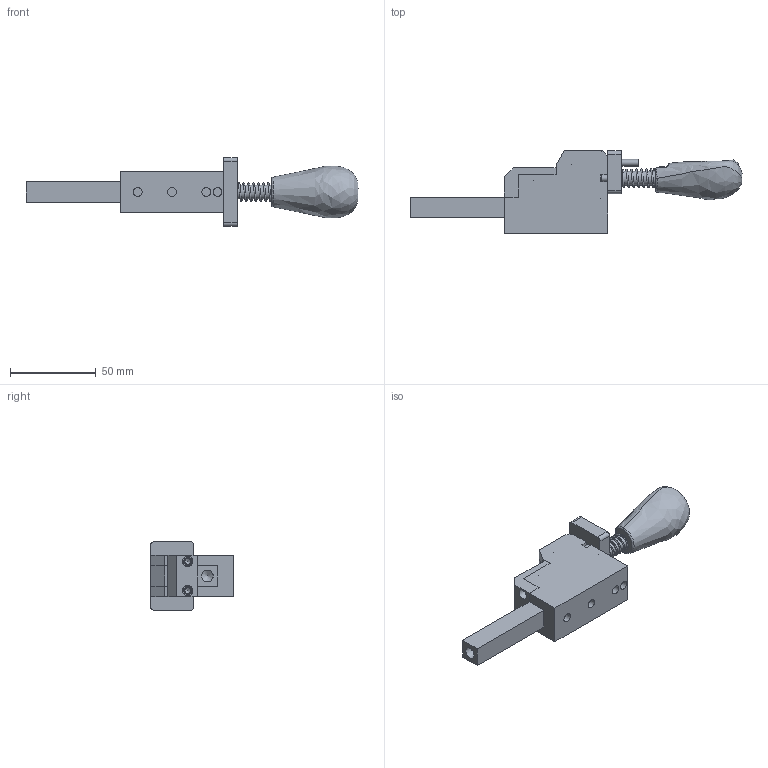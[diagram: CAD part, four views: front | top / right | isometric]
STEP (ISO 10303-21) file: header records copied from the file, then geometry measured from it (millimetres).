
FILE_DESCRIPTION(/* description */ (''),/* implementation_level */ '2;1');
FILE_NAME(/* name */ '\\192.168.1.150\pc03\Inventor\デュアルメカニズムクランプ最終\2017.10月　最新型\KCP-40ST\KCP-40ST-CLAMP.stp',/* time_stamp */ '2024-05-14T16:04:20+09:00',/* author */ ('Backup'),/* organization */ (''),/* preprocessor_version */ 'ST-DEVELOPER v17',/* originating_system */ 'Autodesk Inventor 2019',/* authorisation */ '');
FILE_SCHEMA (('AUTOMOTIVE_DESIGN { 1 0 10303 214 3 1 1 }'));
Length unit declared in the file: millimetre
Products named in the file (11): KCP-40ST-CLAMP; ボディ　T24; 50-30_VER4_PG2__12; カバーブロック; カム; スプリング; スライドバー　□12; ロックブロック; Φ8×40ｼｬﾌﾄ; φ4×25; φ4×25_1
Assembly tree (11 placements, depth 2):
  KCP-40ST-CLAMP
    ボディ　T24
    50-30_VER4_PG2__12
    カバーブロック
    カム
    スプリング
    スライドバー　□12
    ロックブロック
    Φ8×40ｼｬﾌﾄ
    φ4×25  x2
    φ4×25_1
Bounding box: 193.25 x 48 x 40 mm (x, y, z)
Volume: 88497.9 mm3; surface area: 37394.7 mm2
Topology: 11 solids, 11 shells, 255 faces, 685 edges, 457 vertices
Faces by surface type: plane 135, cylinder 82, bspline 25, cone 9, sphere 4
Full cylindrical faces by diameter (mm): 0.01 x11, 1.306 x1, 3.3 x2, 4 x6, 4.3 x4, 4.5 x2, 5.1 x1, 5.2 x3, 6 x3, 6.8 x1, 8 x2, 8.2 x1
Entity records: 19332 total; most frequent: CARTESIAN_POINT 12534, ORIENTED_EDGE 1350, DIRECTION 1310, EDGE_CURVE 675, AXIS2_PLACEMENT_3D 460, VERTEX_POINT 454, LINE 390, VECTOR 390
